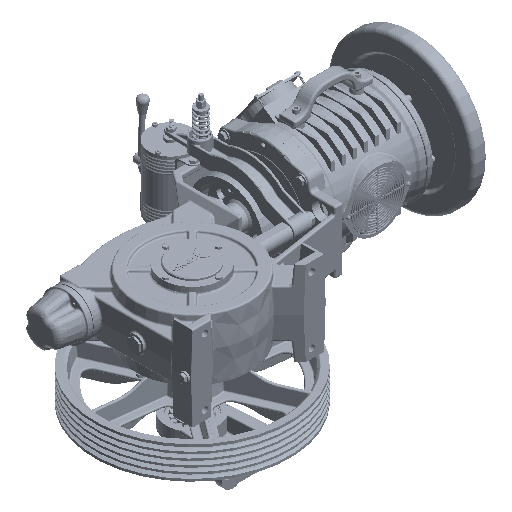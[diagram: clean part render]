
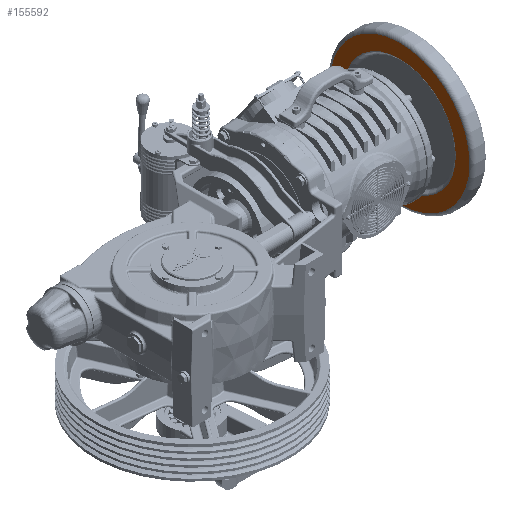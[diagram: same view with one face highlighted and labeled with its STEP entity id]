
A CAD part, isometric view. The second image highlights one B-rep face of the part: STEP entity #155592.
In plain terms, the highlighted planar face has unit normal (-1, 0, 0).
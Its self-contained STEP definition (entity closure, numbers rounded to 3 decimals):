
#13274 = DIRECTION ( 'NONE',  ( 0., 0.336, -0.942 ) ) ;
#17621 = CARTESIAN_POINT ( 'NONE',  ( 373.385, -45.422, 41.491 ) ) ;
#47960 = ORIENTED_EDGE ( 'NONE', *, *, #506654, .T. ) ;
#50732 = AXIS2_PLACEMENT_3D ( 'NONE', #513576, #125629, #298413 ) ;
#52433 = CARTESIAN_POINT ( 'NONE',  ( 373.385, 18.327, -137.495 ) ) ;
#57246 = DIRECTION ( 'NONE',  ( 0., 0.336, -0.942 ) ) ;
#79441 = CARTESIAN_POINT ( 'NONE',  ( 373.385, 98.603, 92.788 ) ) ;
#93899 = AXIS2_PLACEMENT_3D ( 'NONE', #498056, #503651, #407570 ) ;
#104954 = CIRCLE ( 'NONE', #50732, 190. ) ;
#113581 = VERTEX_POINT ( 'NONE', #174351 ) ;
#113728 = VERTEX_POINT ( 'NONE', #52433 ) ;
#125629 = DIRECTION ( 'NONE',  ( 1., 0., 0. ) ) ;
#127555 = VERTEX_POINT ( 'NONE', #428922 ) ;
#130631 = ORIENTED_EDGE ( 'NONE', *, *, #329373, .F. ) ;
#155592 = ADVANCED_FACE ( 'NONE', ( #509881, #376929 ), #430483, .T. ) ;
#169997 = DIRECTION ( 'NONE',  ( -1., 0., 0. ) ) ;
#174351 = CARTESIAN_POINT ( 'NONE',  ( 373.385, 5.875, -102.534 ) ) ;
#184797 = AXIS2_PLACEMENT_3D ( 'NONE', #79441, #169997, #294723 ) ;
#216748 = CIRCLE ( 'NONE', #261616, 152.887 ) ;
#229818 = CIRCLE ( 'NONE', #93899, 152.887 ) ;
#237896 = EDGE_CURVE ( 'NONE', #113581, #127555, #216748, .T. ) ;
#261616 = AXIS2_PLACEMENT_3D ( 'NONE', #321908, #454855, #13274 ) ;
#265383 = EDGE_LOOP ( 'NONE', ( #130631, #431940 ) ) ;
#281561 = EDGE_LOOP ( 'NONE', ( #453049, #47960 ) ) ;
#294723 = DIRECTION ( 'NONE',  ( 0., -0.336, 0.942 ) ) ;
#298413 = DIRECTION ( 'NONE',  ( 0., 0.336, -0.942 ) ) ;
#321908 = CARTESIAN_POINT ( 'NONE',  ( 373.385, -45.422, 41.491 ) ) ;
#329373 = EDGE_CURVE ( 'NONE', #113728, #484508, #429651, .T. ) ;
#351946 = DIRECTION ( 'NONE',  ( 1., 0., 0. ) ) ;
#354891 = CARTESIAN_POINT ( 'NONE',  ( 373.385, -109.171, 220.477 ) ) ;
#376929 = FACE_OUTER_BOUND ( 'NONE', #265383, .T. ) ;
#407570 = DIRECTION ( 'NONE',  ( 0., 0.336, -0.942 ) ) ;
#428922 = CARTESIAN_POINT ( 'NONE',  ( 373.385, -96.719, 185.515 ) ) ;
#429651 = CIRCLE ( 'NONE', #556517, 190. ) ;
#430483 = PLANE ( 'NONE',  #184797 ) ;
#431940 = ORIENTED_EDGE ( 'NONE', *, *, #441799, .F. ) ;
#441799 = EDGE_CURVE ( 'NONE', #484508, #113728, #104954, .T. ) ;
#453049 = ORIENTED_EDGE ( 'NONE', *, *, #237896, .T. ) ;
#454855 = DIRECTION ( 'NONE',  ( 1., 0., 0. ) ) ;
#484508 = VERTEX_POINT ( 'NONE', #354891 ) ;
#498056 = CARTESIAN_POINT ( 'NONE',  ( 373.385, -45.422, 41.491 ) ) ;
#503651 = DIRECTION ( 'NONE',  ( 1., 0., 0. ) ) ;
#506654 = EDGE_CURVE ( 'NONE', #127555, #113581, #229818, .T. ) ;
#509881 = FACE_BOUND ( 'NONE', #281561, .T. ) ;
#513576 = CARTESIAN_POINT ( 'NONE',  ( 373.385, -45.422, 41.491 ) ) ;
#556517 = AXIS2_PLACEMENT_3D ( 'NONE', #17621, #351946, #57246 ) ;
